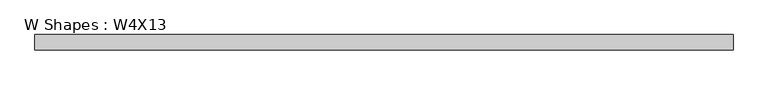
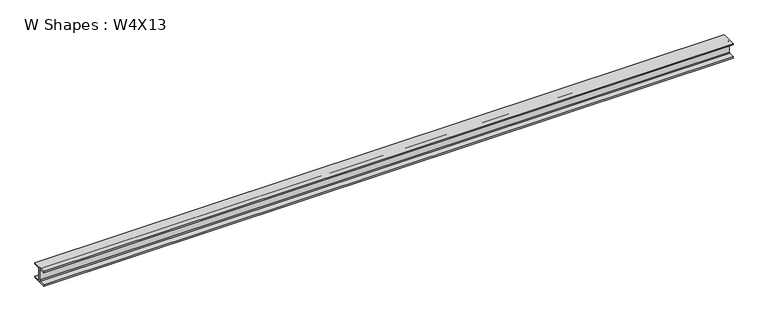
"""IFC4 building model written with IfcOpenShell, lengths in millimetres: beam geometry, W Shapes : W4X13."""

from ifc_helpers import new_model, si_unit, point, frame, frame_2d, origin, place, context, project, spatial, polyline, circle_curve, trimmed, segment, composite_curve, outline, extrude, source, transform, mapped, element, save


def w_shapes_w4x13_eaaf8195(model_context):
    return source(origin(), model_context, "Body", "SweptSolid", [
        extrude(outline(composite_curve([segment(polyline([(51.562, -44.069), (51.562, -52.832), (-51.562, -52.832), (-51.562, -44.069), (-9.906, -44.069)]), True, "CONTINUOUS"), segment(trimmed(circle_curve(frame_2d((-9.906, -37.719)), 6.35), [point((-9.906, -44.069))], [point((-3.556, -37.719))], True, "CARTESIAN"), True, "CONTINUOUS"), segment(polyline([(-3.556, -37.719), (-3.556, 37.719)]), True, "CONTINUOUS"), segment(trimmed(circle_curve(frame_2d((-9.906, 37.719)), 6.35), [point((-3.556, 37.719))], [point((-9.906, 44.069))], True, "CARTESIAN"), True, "CONTINUOUS"), segment(polyline([(-9.906, 44.069), (-51.562, 44.069), (-51.562, 52.832), (51.562, 52.832), (51.562, 44.069), (9.906, 44.069)]), True, "CONTINUOUS"), segment(trimmed(circle_curve(frame_2d((9.906, 37.719)), 6.35), [point((9.906, 44.069))], [point((3.556, 37.719))], True, "CARTESIAN"), True, "CONTINUOUS"), segment(polyline([(3.556, 37.719), (3.556, -37.719)]), True, "CONTINUOUS"), segment(trimmed(circle_curve(frame_2d((9.906, -37.719)), 6.35), [point((3.556, -37.719))], [point((9.906, -44.069))], True, "CARTESIAN"), True, "CONTINUOUS"), segment(polyline([(9.906, -44.069), (51.562, -44.069)]), True, "CONTINUOUS")], self_intersect=False)), frame((-2354.707, 0.0, 0.0), z_axis=(1.0, 0.0, 0.0), x_axis=(0.0, 1.0, 0.0)), (0.0, 0.0, 1.0), 4709.414),
    ])


if __name__ == "__main__":
    model = new_model("IFC4")
    model_context = context("Model", 3, world=origin())
    ifc_project = project(units=[si_unit("LENGTHUNIT", "METRE", prefix="MILLI")], contexts=[model_context])
    site = spatial("IfcSite", under=ifc_project)
    building = spatial("IfcBuilding", under=site)
    placement = place(None, origin())
    w_shapes_w4x13_shape = w_shapes_w4x13_eaaf8195(model_context)
    element("IfcBeam", 1, ObjectType="W Shapes : W4X13", at=placement, inside=building, context=model_context, shape_type="MappedRepresentation", body=[
        mapped(w_shapes_w4x13_shape, transform((0.0, 0.0, 0.0), x_axis=(1.0, 0.0, 0.0), y_axis=(0.0, 1.0, 0.0), z_axis=(0.0, 0.0, 1.0))),
    ])
    save(model, "model.ifc")
